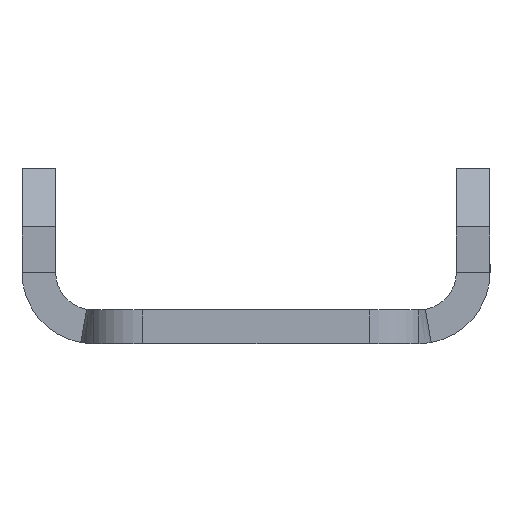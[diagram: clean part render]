
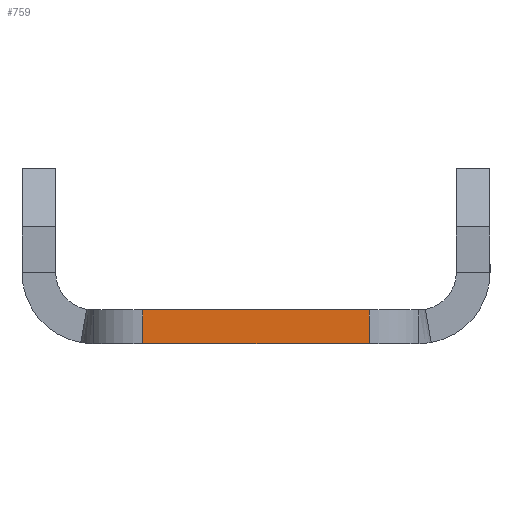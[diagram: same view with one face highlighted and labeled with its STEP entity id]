
A CAD part, left-side view. The second image highlights one B-rep face of the part: STEP entity #759.
In plain terms, the highlighted planar face has unit normal (-1, 0, 0).
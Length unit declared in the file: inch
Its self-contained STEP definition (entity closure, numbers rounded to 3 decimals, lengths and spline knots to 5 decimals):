
#537 = EDGE_CURVE ( 'NONE', #551, #563, #2247, .T. ) ;
#542 = EDGE_CURVE ( 'NONE', #544, #562, #2255, .T. ) ;
#544 = VERTEX_POINT ( 'NONE', #2257 ) ;
#551 = VERTEX_POINT ( 'NONE', #2249 ) ;
#562 = VERTEX_POINT ( 'NONE', #2222 ) ;
#563 = VERTEX_POINT ( 'NONE', #2215 ) ;
#580 = EDGE_CURVE ( 'NONE', #563, #562, #2153, .T. ) ;
#750 = EDGE_CURVE ( 'NONE', #551, #544, #2615, .T. ) ;
#751 = ORIENTED_EDGE ( 'NONE', *, *, #750, .T. ) ;
#758 = ORIENTED_EDGE ( 'NONE', *, *, #580, .F. ) ;
#759 = ADVANCED_FACE ( 'NONE', ( #2263 ), #2295, .F. ) ;
#815 = ORIENTED_EDGE ( 'NONE', *, *, #542, .T. ) ;
#816 = ORIENTED_EDGE ( 'NONE', *, *, #537, .F. ) ;
#825 = EDGE_LOOP ( 'NONE', ( #815, #758, #816, #751 ) ) ;
#2147 = DIRECTION ( 'NONE',  ( 0., 0., -1. ) ) ;
#2148 = VECTOR ( 'NONE', #2147, 39.37008 ) ;
#2152 = CARTESIAN_POINT ( 'NONE',  ( -5.851, -0.242, 0.072 ) ) ;
#2153 = LINE ( 'NONE', #2152, #2148 ) ;
#2215 = CARTESIAN_POINT ( 'NONE',  ( -5.851, -0.242, 0.072 ) ) ;
#2222 = CARTESIAN_POINT ( 'NONE',  ( -5.851, -0.242, 0. ) ) ;
#2244 = DIRECTION ( 'NONE',  ( 0., -1., 0. ) ) ;
#2245 = VECTOR ( 'NONE', #2244, 39.37008 ) ;
#2246 = CARTESIAN_POINT ( 'NONE',  ( -5.851, 0.242, 0.072 ) ) ;
#2247 = LINE ( 'NONE', #2246, #2245 ) ;
#2249 = CARTESIAN_POINT ( 'NONE',  ( -5.851, 0.242, 0.072 ) ) ;
#2252 = DIRECTION ( 'NONE',  ( 0., -1., 0. ) ) ;
#2253 = VECTOR ( 'NONE', #2252, 39.37008 ) ;
#2254 = CARTESIAN_POINT ( 'NONE',  ( -5.851, 0.242, 0. ) ) ;
#2255 = LINE ( 'NONE', #2254, #2253 ) ;
#2257 = CARTESIAN_POINT ( 'NONE',  ( -5.851, 0.242, 0. ) ) ;
#2262 = DIRECTION ( 'NONE',  ( 0., 0., -1. ) ) ;
#2263 = FACE_OUTER_BOUND ( 'NONE', #825, .T. ) ;
#2266 = CARTESIAN_POINT ( 'NONE',  ( -5.851, 0.242, 0.072 ) ) ;
#2267 = DIRECTION ( 'NONE',  ( 1., 0., 0. ) ) ;
#2274 = AXIS2_PLACEMENT_3D ( 'NONE', #2266, #2267, #2262 ) ;
#2295 = PLANE ( 'NONE',  #2274 ) ;
#2611 = DIRECTION ( 'NONE',  ( 0., 0., -1. ) ) ;
#2614 = CARTESIAN_POINT ( 'NONE',  ( -5.851, 0.242, 0.072 ) ) ;
#2615 = LINE ( 'NONE', #2614, #2627 ) ;
#2627 = VECTOR ( 'NONE', #2611, 39.37008 ) ;
